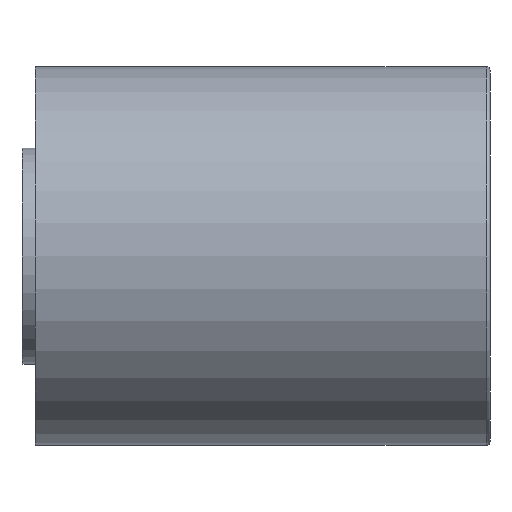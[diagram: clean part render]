
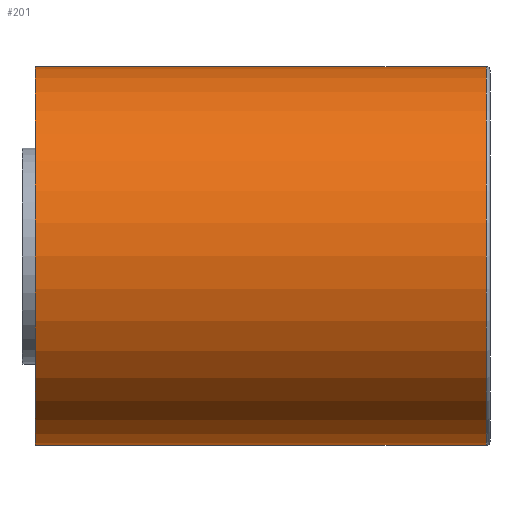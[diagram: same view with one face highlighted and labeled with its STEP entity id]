
A CAD part, front view. The second image highlights one B-rep face of the part: STEP entity #201.
In plain terms, the highlighted cylindrical face has radius 5 mm (diameter 10 mm), a full revolution.
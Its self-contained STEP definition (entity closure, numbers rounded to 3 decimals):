
#201 = ADVANCED_FACE( '', ( #475, #476 ), #477, .T. );
#475 = FACE_OUTER_BOUND( '', #960, .T. );
#476 = FACE_OUTER_BOUND( '', #961, .T. );
#477 = CYLINDRICAL_SURFACE( '', #962, 5. );
#960 = EDGE_LOOP( '', ( #1742 ) );
#961 = EDGE_LOOP( '', ( #1743 ) );
#962 = AXIS2_PLACEMENT_3D( '', #1744, #1745, #1746 );
#1742 = ORIENTED_EDGE( '', *, *, #3250, .T. );
#1743 = ORIENTED_EDGE( '', *, *, #3356, .F. );
#1744 = CARTESIAN_POINT( '', ( 10.1, 0., 0. ) );
#1745 = DIRECTION( '', ( -1., 0., 0. ) );
#1746 = DIRECTION( '', ( 0., 0., -1. ) );
#3250 = EDGE_CURVE( '', #3911, #3911, #3912, .T. );
#3356 = EDGE_CURVE( '', #4099, #4099, #4100, .T. );
#3911 = VERTEX_POINT( '', #4902 );
#3912 = CIRCLE( '', #4903, 5. );
#4099 = VERTEX_POINT( '', #5171 );
#4100 = CIRCLE( '', #5172, 5. );
#4902 = CARTESIAN_POINT( '', ( -1.9, 0., -5. ) );
#4903 = AXIS2_PLACEMENT_3D( '', #6156, #6157, #6158 );
#5171 = CARTESIAN_POINT( '', ( 10., 0., -5. ) );
#5172 = AXIS2_PLACEMENT_3D( '', #6312, #6313, #6314 );
#6156 = CARTESIAN_POINT( '', ( -1.9, 0., 0. ) );
#6157 = DIRECTION( '', ( 1., 0., 0. ) );
#6158 = DIRECTION( '', ( 0., 0., -1. ) );
#6312 = CARTESIAN_POINT( '', ( 10., 0., 0. ) );
#6313 = DIRECTION( '', ( 1., 0., 0. ) );
#6314 = DIRECTION( '', ( 0., 0., -1. ) );
